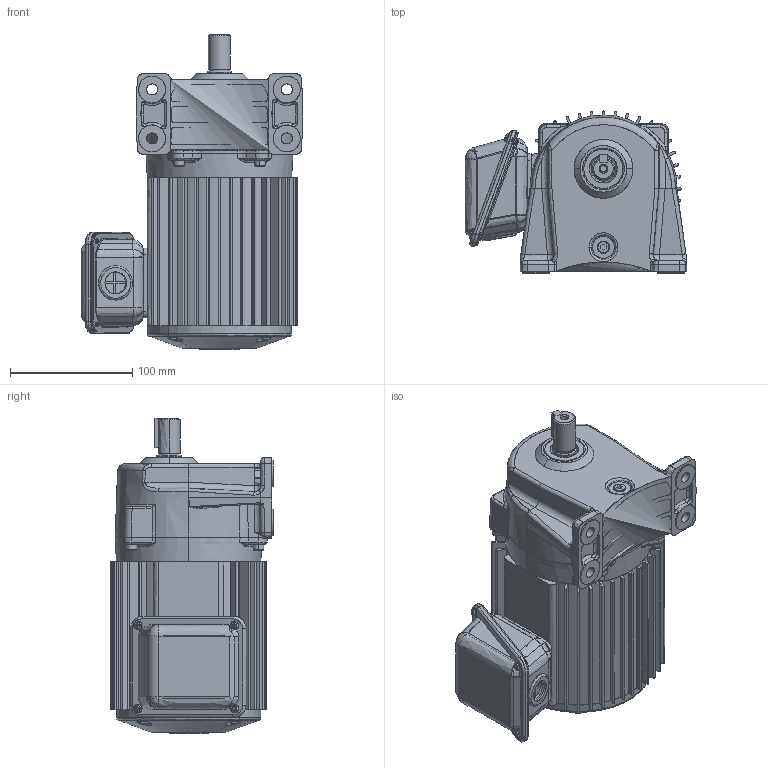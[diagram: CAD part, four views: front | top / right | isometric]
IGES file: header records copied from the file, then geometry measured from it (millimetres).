
Start section: SolidWorks IGES file using analytic representation for surfaces
Global section: file name: \\100.100.100.8\1_共有作業フォルダ\1-5_３Ｄデータ\solidworks\personal-folder\H.Nagayama\SGP1外形\P1(3D)\igs\TML2-02-(5~30).IGS; native system: SolidWorks 2018; preprocessor: SolidWorks 2018; author: sigma-giken; date: 200611.135442; units: millimetre
Bounding box: 181.15 x 132.5 x 257.5 mm (x, y, z)
Surface area: 316803 mm2 (no closed solid volume)
Topology: 0 solids, 0 shells, 1511 faces, 18231 edges, 18171 vertices
Faces by surface type: bspline 785, revolution 726
